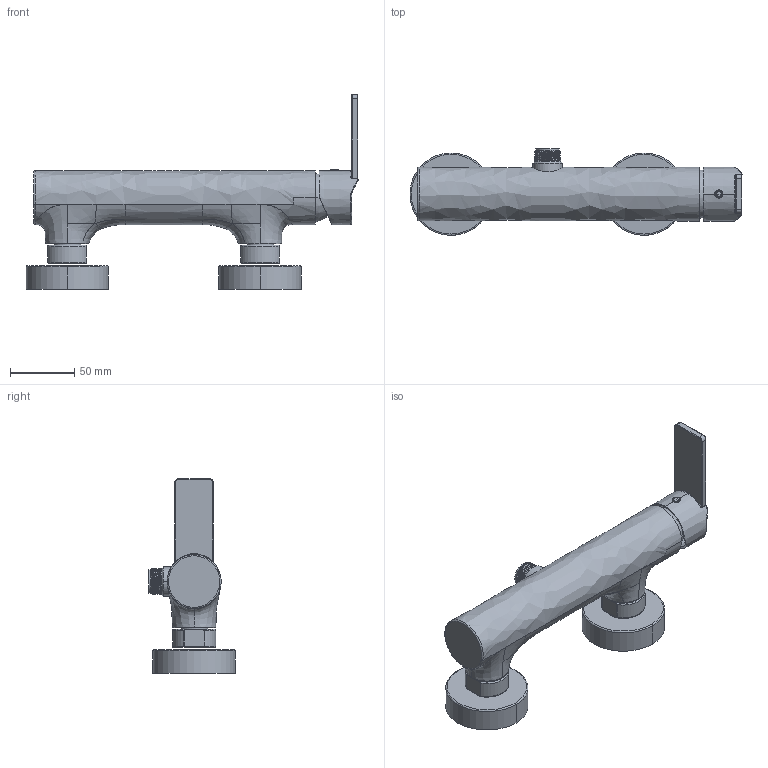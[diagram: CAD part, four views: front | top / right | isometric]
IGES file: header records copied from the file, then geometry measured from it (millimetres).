
Start section:  PTC IGES file: 47007_sw0001.igs
Global section: file name: 47007_sw0001.igs; native system: Creo Parametric by PTC Inc.; preprocessor: 2022014; author: volponeff; organization: Unknown; date: 20240221.093515; units: millimetre
Bounding box: 258.1 x 67.3 x 151.3 mm (x, y, z)
Surface area: 147361.4 mm2 (no closed solid volume)
Topology: 0 solids, 0 shells, 1417 faces, 7408 edges, 7401 vertices
Faces by surface type: revolution 755, bspline 662
